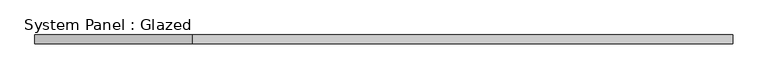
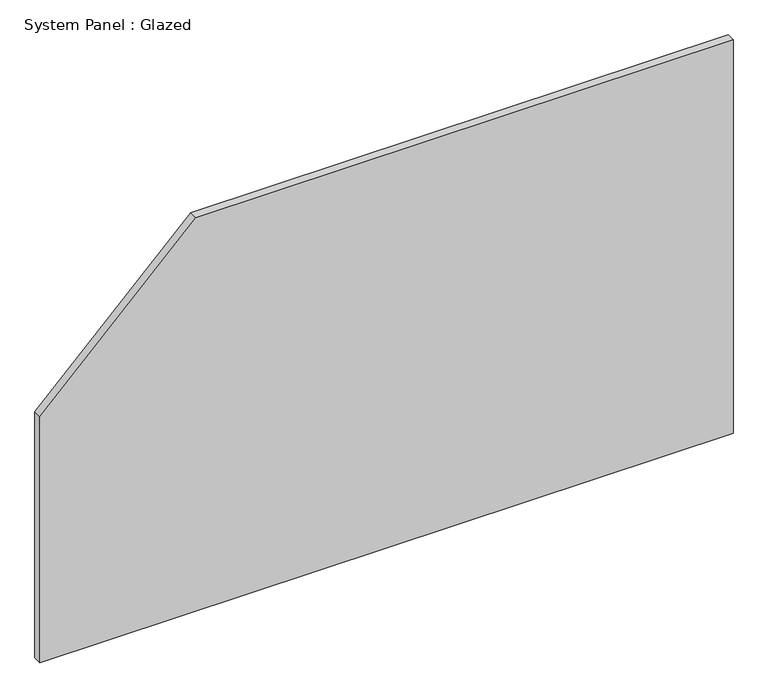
"""IFC4 building model written with IfcOpenShell, lengths in millimetres: plate geometry, System Panel : Glazed."""

import ifcopenshell
import ifcopenshell.guid

model = None  # the IFC model being written
_history = None  # IfcOwnerHistory: only IFC2X3 demands one
_inside = {}  # id of a spatial element -> (the spatial element, [elements in it])
_under = {}  # id of a project, library or spatial element -> (it, [spatial elements below it])
_declared = {}  # id of a project -> (the project, [libraries it declares])
_typed = {}  # id of a type object -> (the type object, [elements of that type])
_made_of = {}  # id of a material, layer set ... -> (it, [elements and type objects made of it])


def new_model(schema):
    """Start an empty IFC model of exactly this schema.

    Asked for "IFC4X3", IfcOpenShell would pick the latest addendum, in which some entities
    have other attributes; the version numbers below select the first issue.
    IFC2X3 requires an IfcOwnerHistory on every rooted entity: one is made here for all.
    """
    global model, _history
    if schema == "IFC4X3":
        model = ifcopenshell.file(schema_version=(4, 3, 0, 0))
    else:
        model = ifcopenshell.file(schema=schema)
    _inside.clear()
    _under.clear()
    _declared.clear()
    _typed.clear()
    _made_of.clear()
    _history = None
    if model.schema == "IFC2X3":
        org = make("IfcOrganization", Name="unknown")
        user = make(
            "IfcPersonAndOrganization",
            ThePerson=make("IfcPerson", FamilyName="unknown"),
            TheOrganization=org,
        )
        app = make(
            "IfcApplication",
            ApplicationDeveloper=org,
            Version="unknown",
            ApplicationFullName="unknown",
            ApplicationIdentifier="unknown",
        )
        _history = make(
            "IfcOwnerHistory",
            OwningUser=user,
            OwningApplication=app,
            ChangeAction="ADDED",
            CreationDate=0,
        )
    return model


def make(cls, **values):
    """One entity of the class cls with the attributes given. An attribute that is None is left unset."""
    return model.create_entity(
        cls, **{name: value for name, value in values.items() if value is not None}
    )


def rooted(cls, **values):
    """An entity with a GlobalId (a new one), such as an element, a storey or a relation."""
    return make(cls, GlobalId=ifcopenshell.guid.new(), OwnerHistory=_history, **values)


def si_unit(unit_type, name, prefix=None):
    """IfcSIUnit, for example si_unit("LENGTHUNIT", "METRE", prefix="MILLI")."""
    return make("IfcSIUnit", UnitType=unit_type, Prefix=prefix, Name=name)


def assignment(units):
    """IfcUnitAssignment: the units of a project."""
    return None if units is None else make("IfcUnitAssignment", Units=units)


def point(xyz):
    """IfcCartesianPoint."""
    return None if xyz is None else make("IfcCartesianPoint", Coordinates=xyz)


def direction(xyz):
    """IfcDirection."""
    return None if xyz is None else make("IfcDirection", DirectionRatios=xyz)


def frame(location, z_axis=None, x_axis=None):
    """IfcAxis2Placement3D, a coordinate frame: its origin and axes. An axis left out is left unset."""
    return make(
        "IfcAxis2Placement3D",
        Location=point(location),
        Axis=direction(z_axis),
        RefDirection=direction(x_axis),
    )


def origin():
    """The frame at (0, 0, 0) with its axes left unset."""
    return frame((0.0, 0.0, 0.0))


def place(relative_to, where):
    """IfcLocalPlacement: puts the frame where relative to a parent placement (None: the world)."""
    return make(
        "IfcLocalPlacement", PlacementRelTo=relative_to, RelativePlacement=where
    )


def context(
    kind, dimensions, precision=None, world=None, true_north=None, identifier=None
):
    """IfcGeometricRepresentationContext, for example the 3D "Model" context."""
    return make(
        "IfcGeometricRepresentationContext",
        ContextIdentifier=identifier,
        ContextType=kind,
        CoordinateSpaceDimension=dimensions,
        Precision=precision,
        WorldCoordinateSystem=world,
        TrueNorth=true_north,
    )


def project(units=None, contexts=None):
    """IfcProject with its units and contexts."""
    return rooted(
        "IfcProject",
        Name="project",
        RepresentationContexts=contexts,
        UnitsInContext=assignment(units),
    )


def spatial(cls, under=None, at=None, **own):
    """A site, building, storey or space (cls), placed at a placement, below another one or the project."""
    s = rooted(cls, ObjectPlacement=at, **own)
    if under is not None:
        _under.setdefault(under.id(), (under, []))[1].append(s)
    return s


def polyline(points):
    """IfcPolyline through the points."""
    return make("IfcPolyline", Points=[point(p) for p in points])


def outline(outer, holes=None, kind="AREA"):
    """IfcArbitraryClosedProfileDef: a profile drawn as a closed curve; with holes, ...WithVoids."""
    if holes is None:
        return make("IfcArbitraryClosedProfileDef", ProfileType=kind, OuterCurve=outer)
    return make(
        "IfcArbitraryProfileDefWithVoids",
        ProfileType=kind,
        OuterCurve=outer,
        InnerCurves=holes,
    )


def extrude(swept, where, along, depth):
    """IfcExtrudedAreaSolid: the profile swept, set in the frame where, extruded along a direction by depth."""
    return make(
        "IfcExtrudedAreaSolid",
        SweptArea=swept,
        Position=where,
        ExtrudedDirection=direction(along),
        Depth=depth,
    )


def shape(context_of_items, identifier, shape_type, items):
    """IfcShapeRepresentation: the items that make up one representation, for example the "Body"."""
    return make(
        "IfcShapeRepresentation",
        ContextOfItems=context_of_items,
        RepresentationIdentifier=identifier,
        RepresentationType=shape_type,
        Items=items,
    )


def source(mapping_origin, context_of_items, identifier, shape_type, items):
    """IfcRepresentationMap: a shape defined once, which mapped items show again and again."""
    return make(
        "IfcRepresentationMap",
        MappingOrigin=mapping_origin,
        MappedRepresentation=shape(context_of_items, identifier, shape_type, items),
    )


def transform(
    local_origin,
    x_axis=None,
    y_axis=None,
    z_axis=None,
    scale=None,
    scale2=None,
    scale3=None,
    uniform=True,
):
    """IfcCartesianTransformationOperator3D, or its non-uniform kind. x_axis, y_axis, z_axis: its Axis1, 2, 3."""
    if uniform:
        return make(
            "IfcCartesianTransformationOperator3D",
            Axis1=direction(x_axis),
            Axis2=direction(y_axis),
            LocalOrigin=point(local_origin),
            Scale=scale,
            Axis3=direction(z_axis),
        )
    return make(
        "IfcCartesianTransformationOperator3DnonUniform",
        Axis1=direction(x_axis),
        Axis2=direction(y_axis),
        LocalOrigin=point(local_origin),
        Scale=scale,
        Axis3=direction(z_axis),
        Scale2=scale2,
        Scale3=scale3,
    )


def mapped(mapping_source, mapping_target):
    """IfcMappedItem: shows the shape of a source again, moved by a transform."""
    return make(
        "IfcMappedItem", MappingSource=mapping_source, MappingTarget=mapping_target
    )


def made_of(thing, what):
    """Note that an element or type object is made of a material, layer set ...; save() writes the relation."""
    if what is not None:
        _made_of.setdefault(what.id(), (what, []))[1].append(thing)
    return thing


def element(
    cls,
    number,
    at=None,
    inside=None,
    cuts=None,
    type_object=None,
    material=None,
    context=None,
    identifier="Body",
    shape_type=None,
    held_by="IfcProductDefinitionShape",
    body=None,
    shapes=None,
    **own,
):
    """One element of the class cls, such as IfcWall. Its Tag is "e" and its number.

    at: its placement. inside: the storey or other place that contains it. cuts: it is an
    opening in that element (IfcRelVoidsElement). A single representation is given by context,
    identifier, shape_type and body (its items); several are given by shapes. held_by: the class
    of the entity that holds the representations. save() writes the other relations.
    """
    e = rooted(cls, Tag="e%d" % number, ObjectPlacement=at, **own)
    if body is not None:
        shapes = [shape(context, identifier, shape_type, body)]
    if shapes is not None:
        e.Representation = make(held_by, Representations=shapes)
    if inside is not None:
        _inside.setdefault(inside.id(), (inside, []))[1].append(e)
    if cuts is not None:
        rooted(
            "IfcRelVoidsElement", RelatingBuildingElement=cuts, RelatedOpeningElement=e
        )
    if type_object is not None:
        _typed.setdefault(type_object.id(), (type_object, []))[1].append(e)
    return made_of(e, material)


def aggregate(whole, parts):
    """IfcRelAggregates: a whole, such as a stair, and the parts it consists of."""
    return rooted("IfcRelAggregates", RelatingObject=whole, RelatedObjects=parts)


def save(model, path):
    """Write the relations noted so far, then the file.

    IfcRelAggregates (storeys below a building ...), IfcRelContainedInSpatialStructure (elements
    in a storey), IfcRelDefinesByType, IfcRelAssociatesMaterial and IfcRelDeclares: one each for
    every whole, place, type object, material and project.
    """
    for whole, parts in _under.values():
        aggregate(whole, parts)
    for where, things in _inside.values():
        rooted(
            "IfcRelContainedInSpatialStructure",
            RelatedElements=things,
            RelatingStructure=where,
        )
    for kind, things in _typed.values():
        rooted("IfcRelDefinesByType", RelatedObjects=things, RelatingType=kind)
    for what, things in _made_of.values():
        rooted("IfcRelAssociatesMaterial", RelatedObjects=things, RelatingMaterial=what)
    for by, libraries in _declared.values():
        rooted("IfcRelDeclares", RelatingContext=by, RelatedDefinitions=libraries)
    model.write(path)


def system_panel_glazed_1f2d8921(model_context):
    return source(origin(), model_context, "Body", "SweptSolid", [
        extrude(outline(polyline([(0.0, -1000.0), (0.0, 1000.0), (1200.0, 1000.0), (1200.0, -550.0), (750.0, -1000.0), (0.0, -1000.0)])), frame((0.0, -49.5, 0.0), z_axis=(0.0, 1.0, 0.0), x_axis=(0.0, 0.0, 1.0)), (0.0, 0.0, 1.0), 25.0),
    ])


if __name__ == "__main__":
    model = new_model("IFC4")
    model_context = context("Model", 3, world=origin())
    ifc_project = project(units=[si_unit("LENGTHUNIT", "METRE", prefix="MILLI")], contexts=[model_context])
    site = spatial("IfcSite", under=ifc_project)
    building = spatial("IfcBuilding", under=site)
    placement = place(None, origin())
    system_panel_glazed_shape = system_panel_glazed_1f2d8921(model_context)
    element("IfcPlate", 1, ObjectType="System Panel : Glazed", at=placement, inside=building, context=model_context, shape_type="MappedRepresentation", body=[
        mapped(system_panel_glazed_shape, transform((0.0, 0.0, 0.0), x_axis=(1.0, 0.0, 0.0), y_axis=(0.0, 1.0, 0.0), z_axis=(0.0, 0.0, 1.0))),
    ])
    save(model, "model.ifc")
